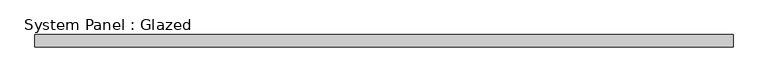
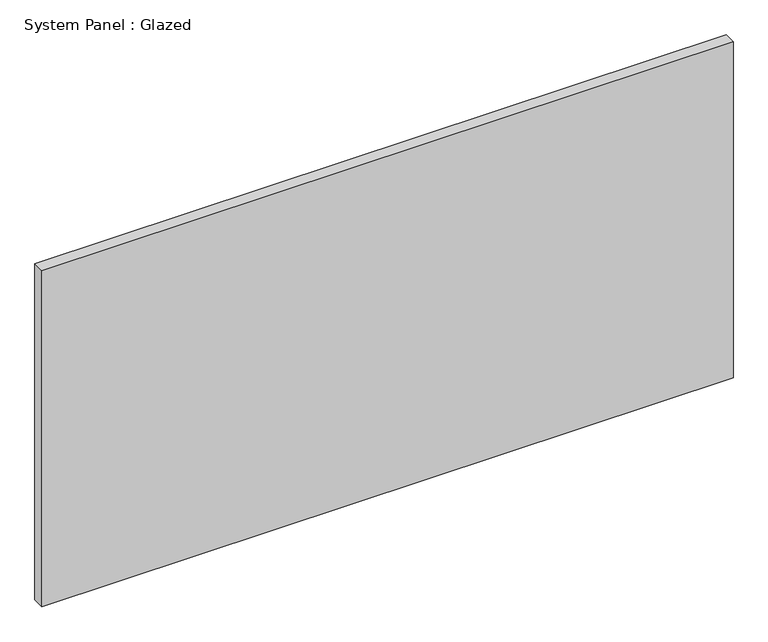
"""IFC4 building model written with IfcOpenShell, lengths in millimetres: plate geometry, System Panel : Glazed."""

from ifc_helpers import new_model, si_unit, origin, origin_with_axes, place, context, project, spatial, polyline, outline, extrude, source, transform, mapped, element, save


def system_panel_glazed_a09fb01a(model_context):
    return source(origin(), model_context, "Body", "SweptSolid", [
        extrude(outline(polyline([(705.5555556, 24.5), (-705.5555556, 24.5), (-705.5555556, 49.5), (705.5555556, 49.5), (705.5555556, 24.5)])), origin_with_axes(), (0.0, 0.0, 1.0), 725.0),
    ])


if __name__ == "__main__":
    model = new_model("IFC4")
    model_context = context("Model", 3, world=origin())
    ifc_project = project(units=[si_unit("LENGTHUNIT", "METRE", prefix="MILLI")], contexts=[model_context])
    site = spatial("IfcSite", under=ifc_project)
    building = spatial("IfcBuilding", under=site)
    placement = place(None, origin())
    system_panel_glazed_shape = system_panel_glazed_a09fb01a(model_context)
    element("IfcPlate", 1, ObjectType="System Panel : Glazed", at=placement, inside=building, context=model_context, shape_type="MappedRepresentation", body=[
        mapped(system_panel_glazed_shape, transform((0.0, 0.0, 0.0), x_axis=(1.0, 0.0, 0.0), y_axis=(0.0, 1.0, 0.0), z_axis=(0.0, 0.0, 1.0))),
    ])
    save(model, "model.ifc")
